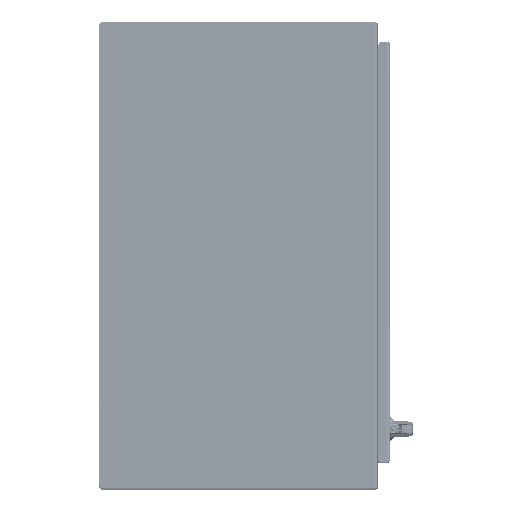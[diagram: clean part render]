
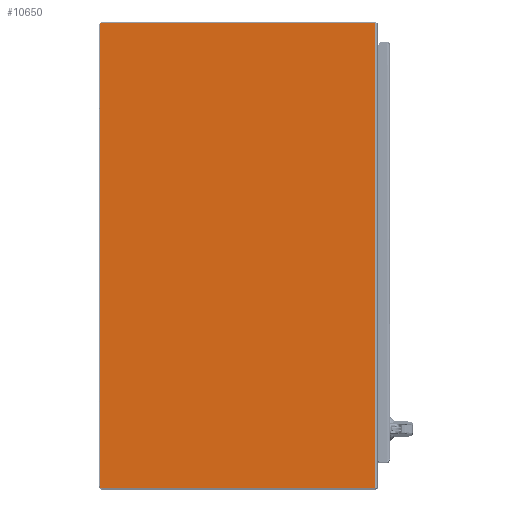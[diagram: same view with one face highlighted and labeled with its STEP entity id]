
A CAD part, top view. The second image highlights one B-rep face of the part: STEP entity #10650.
In plain terms, the highlighted planar face has unit normal (0, 0, 1) as drawn and (0, 1, 0) by its records, which use the part's own axes.
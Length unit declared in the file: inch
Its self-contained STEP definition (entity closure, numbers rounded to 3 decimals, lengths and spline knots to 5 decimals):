
#9865=CARTESIAN_POINT('',(-23.888,0.,-20.013));
#9866=DIRECTION('',(0.,1.,0.));
#9867=DIRECTION('',(0.,0.,-1.));
#9868=AXIS2_PLACEMENT_3D('',#9865,#9866,#9867);
#9873=CARTESIAN_POINT('',(-23.888,0.,20.013));
#9874=DIRECTION('',(0.,1.,0.));
#9875=DIRECTION('',(-1.,0.,0.));
#9876=AXIS2_PLACEMENT_3D('',#9873,#9874,#9875);
#9888=DIRECTION('',(0.,0.,-1.));
#9889=VECTOR('',#9888,40.026);
#9890=CARTESIAN_POINT('',(-23.948,0.,20.013));
#9891=LINE('',#9890,#9889);
#9916=DIRECTION('',(-1.,0.,0.));
#9917=VECTOR('',#9916,23.6415);
#9918=CARTESIAN_POINT('',(-0.2465,0.,20.073));
#9919=LINE('',#9918,#9917);
#9959=DIRECTION('',(0.,0.,1.));
#9960=VECTOR('',#9959,40.146);
#9961=CARTESIAN_POINT('',(-0.2465,0.,-20.073));
#9962=LINE('',#9961,#9960);
#10067=DIRECTION('',(-1.,0.,0.));
#10068=VECTOR('',#10067,23.6415);
#10069=CARTESIAN_POINT('',(-0.2465,0.,-20.073));
#10070=LINE('',#10069,#10068);
#10535=CARTESIAN_POINT('',(-0.2465,0.,20.073));
#10536=VERTEX_POINT('',#10535);
#10537=CARTESIAN_POINT('',(-0.2465,0.,-20.073));
#10538=VERTEX_POINT('',#10537);
#10563=CARTESIAN_POINT('',(-23.888,0.,-20.073));
#10564=CARTESIAN_POINT('',(-23.948,0.,-20.013));
#10565=VERTEX_POINT('',#10563);
#10566=VERTEX_POINT('',#10564);
#10571=CARTESIAN_POINT('',(-23.948,0.,20.013));
#10572=CARTESIAN_POINT('',(-23.888,0.,20.073));
#10573=VERTEX_POINT('',#10571);
#10574=VERTEX_POINT('',#10572);
#10631=CARTESIAN_POINT('',(0.,0.,20.073));
#10632=DIRECTION('',(0.,1.,0.));
#10633=DIRECTION('',(-1.,0.,0.));
#10634=AXIS2_PLACEMENT_3D('',#10631,#10632,#10633);
#10635=PLANE('',#10634);
#10637=ORIENTED_EDGE('',*,*,#10636,.F.);
#10639=ORIENTED_EDGE('',*,*,#10638,.F.);
#10641=ORIENTED_EDGE('',*,*,#10640,.T.);
#10643=ORIENTED_EDGE('',*,*,#10642,.T.);
#10645=ORIENTED_EDGE('',*,*,#10644,.F.);
#10647=ORIENTED_EDGE('',*,*,#10646,.T.);
#10648=EDGE_LOOP('',(#10637,#10639,#10641,#10643,#10645,#10647));
#10649=FACE_OUTER_BOUND('',#10648,.F.);
#9869=CIRCLE('',#9868,0.06);
#9877=CIRCLE('',#9876,0.06);
#10636=EDGE_CURVE('',#10565,#10566,#9869,.T.);
#10638=EDGE_CURVE('',#10538,#10565,#10070,.T.);
#10640=EDGE_CURVE('',#10538,#10536,#9962,.T.);
#10642=EDGE_CURVE('',#10536,#10574,#9919,.T.);
#10644=EDGE_CURVE('',#10573,#10574,#9877,.T.);
#10646=EDGE_CURVE('',#10573,#10566,#9891,.T.);
#10650=ADVANCED_FACE('',(#10649),#10635,.T.);
